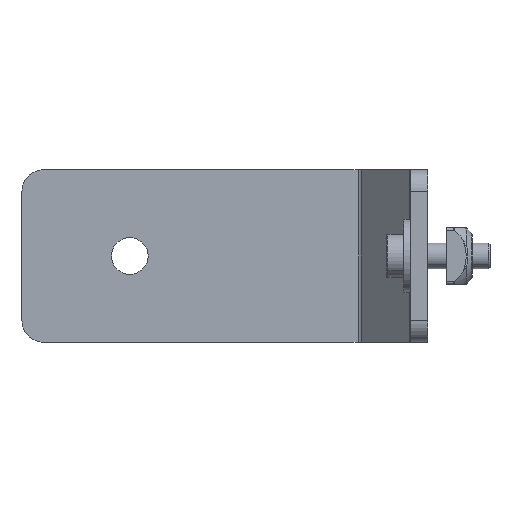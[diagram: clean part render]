
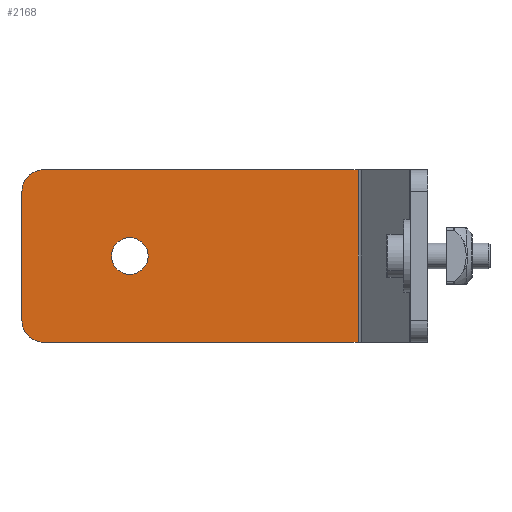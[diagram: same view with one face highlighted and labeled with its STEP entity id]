
A CAD part, front view. The second image highlights one B-rep face of the part: STEP entity #2168.
In plain terms, the highlighted planar face has unit normal (0, -1, 0).
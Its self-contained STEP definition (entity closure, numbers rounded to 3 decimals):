
#21 = LINE ( 'NONE', #2377, #2695 ) ;
#23 = CIRCLE ( 'NONE', #1084, 5. ) ;
#43 = ORIENTED_EDGE ( 'NONE', *, *, #2630, .T. ) ;
#71 = CARTESIAN_POINT ( 'NONE',  ( -89.142, 70.142, -20. ) ) ;
#103 = ORIENTED_EDGE ( 'NONE', *, *, #2444, .F. ) ;
#154 = CARTESIAN_POINT ( 'NONE',  ( -69.142, 70.142, -4.25 ) ) ;
#186 = EDGE_CURVE ( 'NONE', #1781, #1192, #491, .T. ) ;
#195 = AXIS2_PLACEMENT_3D ( 'NONE', #618, #1894, #2612 ) ;
#254 = VERTEX_POINT ( 'NONE', #427 ) ;
#263 = CARTESIAN_POINT ( 'NONE',  ( -69.142, 70.142, 0. ) ) ;
#427 = CARTESIAN_POINT ( 'NONE',  ( -94.142, 70.142, 15. ) ) ;
#442 = EDGE_CURVE ( 'NONE', #2670, #3145, #2156, .T. ) ;
#491 = LINE ( 'NONE', #850, #841 ) ;
#495 = PLANE ( 'NONE',  #1218 ) ;
#501 = DIRECTION ( 'NONE',  ( 1., 0., 0. ) ) ;
#552 = AXIS2_PLACEMENT_3D ( 'NONE', #1555, #1574, #1051 ) ;
#555 = LINE ( 'NONE', #1883, #2490 ) ;
#574 = DIRECTION ( 'NONE',  ( -1., 0., 0. ) ) ;
#618 = CARTESIAN_POINT ( 'NONE',  ( -89.142, 70.142, -15. ) ) ;
#622 = ORIENTED_EDGE ( 'NONE', *, *, #186, .T. ) ;
#637 = FACE_BOUND ( 'NONE', #3195, .T. ) ;
#778 = ORIENTED_EDGE ( 'NONE', *, *, #2575, .T. ) ;
#792 = AXIS2_PLACEMENT_3D ( 'NONE', #263, #2734, #501 ) ;
#802 = ORIENTED_EDGE ( 'NONE', *, *, #3216, .T. ) ;
#841 = VECTOR ( 'NONE', #1913, 1000. ) ;
#842 = DIRECTION ( 'NONE',  ( 0., 0., -1. ) ) ;
#850 = CARTESIAN_POINT ( 'NONE',  ( -14.142, 70.142, 20. ) ) ;
#872 = ORIENTED_EDGE ( 'NONE', *, *, #1595, .F. ) ;
#1051 = DIRECTION ( 'NONE',  ( 1., 0., 0. ) ) ;
#1070 = CARTESIAN_POINT ( 'NONE',  ( -69.142, 70.142, 4.25 ) ) ;
#1084 = AXIS2_PLACEMENT_3D ( 'NONE', #2229, #2475, #1769 ) ;
#1192 = VERTEX_POINT ( 'NONE', #2842 ) ;
#1197 = ORIENTED_EDGE ( 'NONE', *, *, #2487, .F. ) ;
#1218 = AXIS2_PLACEMENT_3D ( 'NONE', #1793, #2251, #2270 ) ;
#1235 = FACE_OUTER_BOUND ( 'NONE', #2679, .T. ) ;
#1555 = CARTESIAN_POINT ( 'NONE',  ( -69.142, 70.142, 0. ) ) ;
#1574 = DIRECTION ( 'NONE',  ( 0., -1., 0. ) ) ;
#1595 = EDGE_CURVE ( 'NONE', #3145, #2670, #2869, .T. ) ;
#1617 = VERTEX_POINT ( 'NONE', #1835 ) ;
#1769 = DIRECTION ( 'NONE',  ( 1., 0., 0. ) ) ;
#1781 = VERTEX_POINT ( 'NONE', #2591 ) ;
#1793 = CARTESIAN_POINT ( 'NONE',  ( -14.142, 70.142, 20. ) ) ;
#1835 = CARTESIAN_POINT ( 'NONE',  ( -16.213, 70.142, -20. ) ) ;
#1883 = CARTESIAN_POINT ( 'NONE',  ( -16.213, 70.142, 20. ) ) ;
#1894 = DIRECTION ( 'NONE',  ( 0., -1., 0. ) ) ;
#1913 = DIRECTION ( 'NONE',  ( -1., 0., 0. ) ) ;
#1990 = VECTOR ( 'NONE', #574, 1000. ) ;
#2111 = VERTEX_POINT ( 'NONE', #2754 ) ;
#2138 = DIRECTION ( 'NONE',  ( 0., 0., -1. ) ) ;
#2156 = CIRCLE ( 'NONE', #792, 4.25 ) ;
#2168 = ADVANCED_FACE ( 'NONE', ( #637, #1235 ), #495, .T. ) ;
#2229 = CARTESIAN_POINT ( 'NONE',  ( -89.142, 70.142, 15. ) ) ;
#2251 = DIRECTION ( 'NONE',  ( 0., -1., 0. ) ) ;
#2270 = DIRECTION ( 'NONE',  ( 1., 0., 0. ) ) ;
#2377 = CARTESIAN_POINT ( 'NONE',  ( -94.142, 70.142, 20. ) ) ;
#2419 = VERTEX_POINT ( 'NONE', #71 ) ;
#2444 = EDGE_CURVE ( 'NONE', #1617, #2419, #2650, .T. ) ;
#2475 = DIRECTION ( 'NONE',  ( 0., -1., 0. ) ) ;
#2487 = EDGE_CURVE ( 'NONE', #1781, #1617, #555, .T. ) ;
#2490 = VECTOR ( 'NONE', #842, 1000. ) ;
#2575 = EDGE_CURVE ( 'NONE', #1192, #254, #23, .T. ) ;
#2586 = CARTESIAN_POINT ( 'NONE',  ( -14.142, 70.142, -20. ) ) ;
#2591 = CARTESIAN_POINT ( 'NONE',  ( -16.213, 70.142, 20. ) ) ;
#2612 = DIRECTION ( 'NONE',  ( 1., 0., 0. ) ) ;
#2630 = EDGE_CURVE ( 'NONE', #2111, #2419, #2986, .T. ) ;
#2650 = LINE ( 'NONE', #2586, #1990 ) ;
#2670 = VERTEX_POINT ( 'NONE', #154 ) ;
#2679 = EDGE_LOOP ( 'NONE', ( #622, #778, #802, #43, #103, #1197 ) ) ;
#2695 = VECTOR ( 'NONE', #2138, 1000. ) ;
#2734 = DIRECTION ( 'NONE',  ( 0., -1., 0. ) ) ;
#2754 = CARTESIAN_POINT ( 'NONE',  ( -94.142, 70.142, -15. ) ) ;
#2756 = ORIENTED_EDGE ( 'NONE', *, *, #442, .F. ) ;
#2842 = CARTESIAN_POINT ( 'NONE',  ( -89.142, 70.142, 20. ) ) ;
#2869 = CIRCLE ( 'NONE', #552, 4.25 ) ;
#2986 = CIRCLE ( 'NONE', #195, 5. ) ;
#3145 = VERTEX_POINT ( 'NONE', #1070 ) ;
#3195 = EDGE_LOOP ( 'NONE', ( #872, #2756 ) ) ;
#3216 = EDGE_CURVE ( 'NONE', #254, #2111, #21, .T. ) ;
